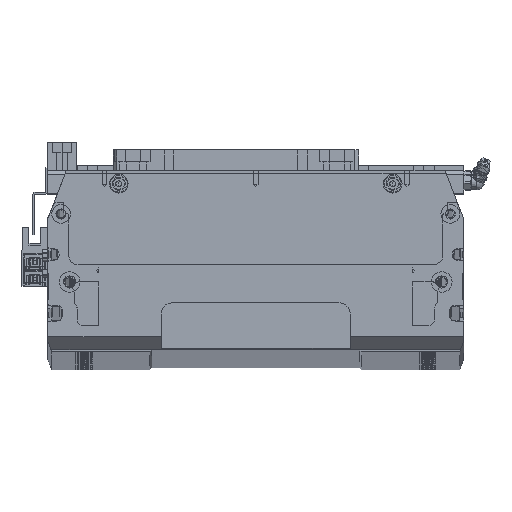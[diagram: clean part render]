
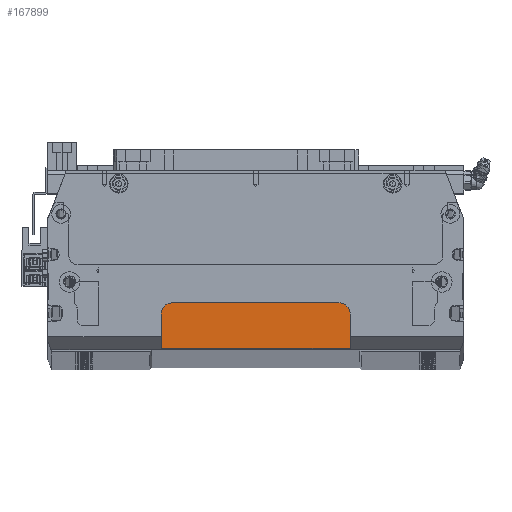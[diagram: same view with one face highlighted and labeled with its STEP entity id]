
A CAD part, top view. The second image highlights one B-rep face of the part: STEP entity #167899.
In plain terms, the highlighted planar face has unit normal (0, 0, 1) as drawn and (0, 1, 0) by its records, which use the part's own axes.
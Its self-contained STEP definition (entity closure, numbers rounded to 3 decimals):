
#4006 = DIRECTION ( 'NONE',  ( 0., 0., -1. ) ) ;
#10987 = EDGE_CURVE ( 'NONE', #244024, #284185, #219527, .T. ) ;
#17563 = CIRCLE ( 'NONE', #49876, 6. ) ;
#20650 = ORIENTED_EDGE ( 'NONE', *, *, #127792, .T. ) ;
#36309 = DIRECTION ( 'NONE',  ( 0., 1., 0. ) ) ;
#38553 = ORIENTED_EDGE ( 'NONE', *, *, #223536, .T. ) ;
#48576 = EDGE_LOOP ( 'NONE', ( #109065, #20650, #38553, #431620, #184804, #482982 ) ) ;
#49876 = AXIS2_PLACEMENT_3D ( 'NONE', #66274, #376503, #69563 ) ;
#54318 = EDGE_CURVE ( 'NONE', #324420, #240057, #265192, .T. ) ;
#56527 = CARTESIAN_POINT ( 'NONE',  ( -50., 8., 58.25 ) ) ;
#61485 = DIRECTION ( 'NONE',  ( 0., 0., 1. ) ) ;
#66274 = CARTESIAN_POINT ( 'NONE',  ( 44., 8., 39.25 ) ) ;
#69563 = DIRECTION ( 'NONE',  ( 0., 0., -1. ) ) ;
#78602 = FACE_OUTER_BOUND ( 'NONE', #48576, .T. ) ;
#78989 = LINE ( 'NONE', #56527, #90881 ) ;
#90301 = CARTESIAN_POINT ( 'NONE',  ( -44., 8., 33.25 ) ) ;
#90881 = VECTOR ( 'NONE', #61485, 1000. ) ;
#109065 = ORIENTED_EDGE ( 'NONE', *, *, #284588, .T. ) ;
#111415 = DIRECTION ( 'NONE',  ( 0., 0., -1. ) ) ;
#123923 = VECTOR ( 'NONE', #433818, 1000. ) ;
#124973 = VERTEX_POINT ( 'NONE', #362290 ) ;
#127792 = EDGE_CURVE ( 'NONE', #124973, #357539, #17563, .T. ) ;
#163705 = CARTESIAN_POINT ( 'NONE',  ( 50., 8., 57.25 ) ) ;
#167899 = ADVANCED_FACE ( 'NONE', ( #78602 ), #422760, .F. ) ;
#173528 = AXIS2_PLACEMENT_3D ( 'NONE', #375028, #36309, #111415 ) ;
#184804 = ORIENTED_EDGE ( 'NONE', *, *, #426596, .T. ) ;
#201918 = CARTESIAN_POINT ( 'NONE',  ( 50., 8., 58.25 ) ) ;
#205875 = CARTESIAN_POINT ( 'NONE',  ( -50., 8., 33.25 ) ) ;
#209613 = CARTESIAN_POINT ( 'NONE',  ( 44., 8., 33.25 ) ) ;
#211411 = CARTESIAN_POINT ( 'NONE',  ( -50., 8., 39.25 ) ) ;
#219527 = LINE ( 'NONE', #352166, #123923 ) ;
#223536 = EDGE_CURVE ( 'NONE', #357539, #324420, #410889, .T. ) ;
#232535 = DIRECTION ( 'NONE',  ( 0., -1., 0. ) ) ;
#240057 = VERTEX_POINT ( 'NONE', #211411 ) ;
#244024 = VERTEX_POINT ( 'NONE', #163705 ) ;
#246127 = LINE ( 'NONE', #201918, #258095 ) ;
#258095 = VECTOR ( 'NONE', #355396, 1000. ) ;
#265192 = CIRCLE ( 'NONE', #173528, 6. ) ;
#284185 = VERTEX_POINT ( 'NONE', #340584 ) ;
#284254 = DIRECTION ( 'NONE',  ( -1., 0., 0. ) ) ;
#284588 = EDGE_CURVE ( 'NONE', #244024, #124973, #246127, .T. ) ;
#309387 = VECTOR ( 'NONE', #284254, 1000. ) ;
#324420 = VERTEX_POINT ( 'NONE', #90301 ) ;
#340584 = CARTESIAN_POINT ( 'NONE',  ( -50., 8., 57.25 ) ) ;
#352166 = CARTESIAN_POINT ( 'NONE',  ( 110., 8., 57.25 ) ) ;
#355396 = DIRECTION ( 'NONE',  ( 0., 0., -1. ) ) ;
#357539 = VERTEX_POINT ( 'NONE', #209613 ) ;
#362290 = CARTESIAN_POINT ( 'NONE',  ( 50., 8., 39.25 ) ) ;
#375028 = CARTESIAN_POINT ( 'NONE',  ( -44., 8., 39.25 ) ) ;
#376503 = DIRECTION ( 'NONE',  ( 0., 1., 0. ) ) ;
#407362 = AXIS2_PLACEMENT_3D ( 'NONE', #461144, #232535, #4006 ) ;
#410889 = LINE ( 'NONE', #205875, #309387 ) ;
#422760 = PLANE ( 'NONE',  #407362 ) ;
#426596 = EDGE_CURVE ( 'NONE', #240057, #284185, #78989, .T. ) ;
#431620 = ORIENTED_EDGE ( 'NONE', *, *, #54318, .T. ) ;
#433818 = DIRECTION ( 'NONE',  ( -1., 0., 0. ) ) ;
#461144 = CARTESIAN_POINT ( 'NONE',  ( 0., 8., 0. ) ) ;
#482982 = ORIENTED_EDGE ( 'NONE', *, *, #10987, .F. ) ;
